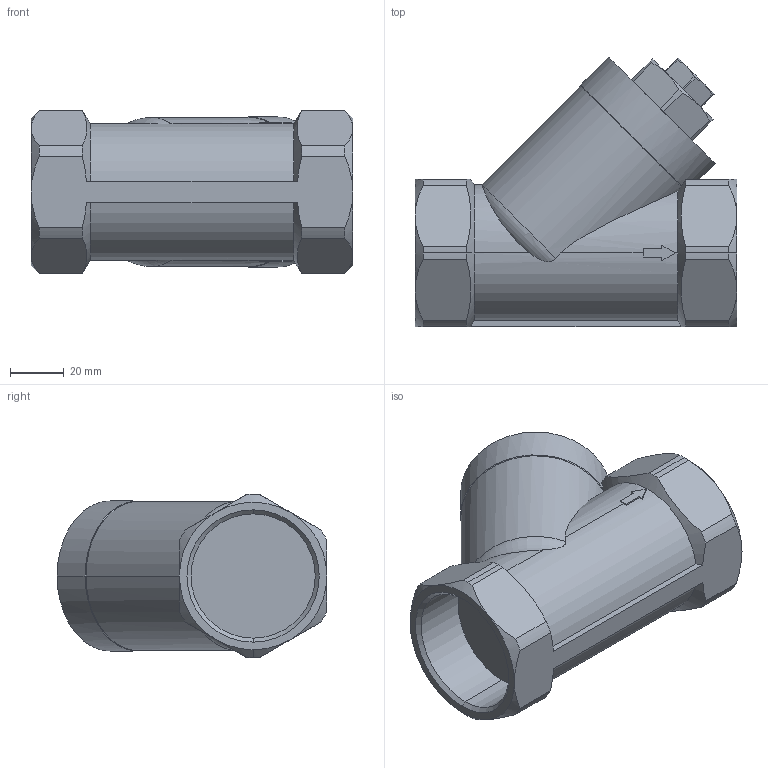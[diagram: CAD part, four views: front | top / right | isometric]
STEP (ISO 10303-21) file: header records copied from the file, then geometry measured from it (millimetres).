
FILE_DESCRIPTION (( 'STEP AP203' ), '1' );
FILE_NAME ('10.000.040.0.STEP', '2018-12-07T13:06:31', ( 'dell2' ), ( 'Microsoft' ), 'SwSTEP 2.0', 'SolidWorks 2017', '' );
FILE_SCHEMA (( 'CONFIG_CONTROL_DESIGN' ));
Length unit declared in the file: millimetre
Products named in the file (1): 10.000.040.0
Bounding box: 120 x 100.57 x 61 mm (x, y, z)
Volume: 321942.3 mm3; surface area: 41125.4 mm2
Topology: 1 solids, 1 shells, 127 faces, 324 edges, 203 vertices
Faces by surface type: plane 48, cylinder 39, cone 38, torus 2
Entity records: 4426 total; most frequent: CARTESIAN_POINT 1362, ORIENTED_EDGE 648, DIRECTION 609, EDGE_CURVE 324, AXIS2_PLACEMENT_3D 244, VERTEX_POINT 203, EDGE_LOOP 131, ADVANCED_FACE 127
